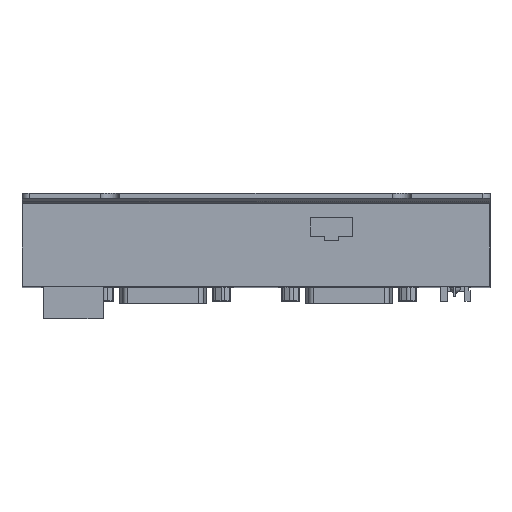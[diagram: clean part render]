
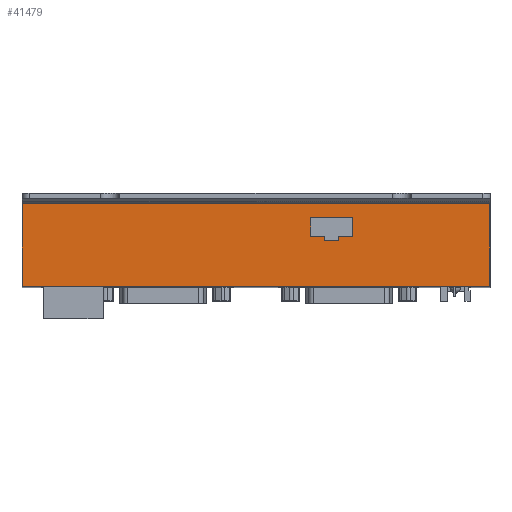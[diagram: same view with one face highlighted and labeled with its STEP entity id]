
A CAD part, top view. The second image highlights one B-rep face of the part: STEP entity #41479.
In plain terms, the highlighted planar face has unit normal (0, 0, 1) as drawn and (1, 0, 0) by its records, which use the part's own axes.
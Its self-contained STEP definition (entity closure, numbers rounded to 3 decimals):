
#385 = EDGE_CURVE ( 'NONE', #54546, #32883, #46761, .T. ) ;
#604 = ORIENTED_EDGE ( 'NONE', *, *, #1117, .T. ) ;
#740 = CARTESIAN_POINT ( 'NONE',  ( 112.5, -19.5, 10.5 ) ) ;
#818 = DIRECTION ( 'NONE',  ( 0., 0., -1. ) ) ;
#1117 = EDGE_CURVE ( 'NONE', #26230, #8861, #50055, .T. ) ;
#1192 = VERTEX_POINT ( 'NONE', #31965 ) ;
#1348 = VERTEX_POINT ( 'NONE', #44324 ) ;
#2355 = CARTESIAN_POINT ( 'NONE',  ( 112.5, -23.5, 10.5 ) ) ;
#4439 = DIRECTION ( 'NONE',  ( 0., 0., 1. ) ) ;
#6897 = EDGE_CURVE ( 'NONE', #19332, #8861, #43477, .T. ) ;
#7776 = CARTESIAN_POINT ( 'NONE',  ( 112.5, -19.5, 10.5 ) ) ;
#8861 = VERTEX_POINT ( 'NONE', #39224 ) ;
#9133 = LINE ( 'NONE', #33086, #58863 ) ;
#9152 = VERTEX_POINT ( 'NONE', #60733 ) ;
#9473 = VECTOR ( 'NONE', #61089, 1000. ) ;
#10717 = CARTESIAN_POINT ( 'NONE',  ( 112.5, 66.5, 23.5 ) ) ;
#11447 = EDGE_CURVE ( 'NONE', #32883, #1348, #40094, .T. ) ;
#11672 = CARTESIAN_POINT ( 'NONE',  ( 112.5, 66.5, 23.5 ) ) ;
#12500 = DIRECTION ( 'NONE',  ( 0., 0., 1. ) ) ;
#13171 = EDGE_LOOP ( 'NONE', ( #604, #50234, #51961, #59231 ) ) ;
#13631 = DIRECTION ( 'NONE',  ( 0., 0., -1. ) ) ;
#14530 = CARTESIAN_POINT ( 'NONE',  ( 112.5, -19.5, 9.3 ) ) ;
#14789 = LINE ( 'NONE', #740, #39453 ) ;
#14814 = VECTOR ( 'NONE', #54272, 1000. ) ;
#15420 = PLANE ( 'NONE',  #34109 ) ;
#15707 = VERTEX_POINT ( 'NONE', #14530 ) ;
#16043 = DIRECTION ( 'NONE',  ( 0., -1., 0. ) ) ;
#17066 = CARTESIAN_POINT ( 'NONE',  ( 112.5, 66.5, 0. ) ) ;
#17308 = CARTESIAN_POINT ( 'NONE',  ( 112.5, 66.5, 23.5 ) ) ;
#18382 = CARTESIAN_POINT ( 'NONE',  ( 112.5, -66.5, 0. ) ) ;
#19069 = VECTOR ( 'NONE', #818, 1000. ) ;
#19095 = VECTOR ( 'NONE', #60395, 1000. ) ;
#19182 = EDGE_CURVE ( 'NONE', #52443, #54546, #14789, .T. ) ;
#19332 = VERTEX_POINT ( 'NONE', #10717 ) ;
#19837 = VECTOR ( 'NONE', #12500, 1000. ) ;
#20077 = DIRECTION ( 'NONE',  ( -1., 0., 0. ) ) ;
#20409 = CARTESIAN_POINT ( 'NONE',  ( 112.5, 66.5, 23.5 ) ) ;
#20636 = CARTESIAN_POINT ( 'NONE',  ( 112.5, -27.5, 9.3 ) ) ;
#20992 = FACE_OUTER_BOUND ( 'NONE', #13171, .T. ) ;
#21498 = CARTESIAN_POINT ( 'NONE',  ( 112.5, -27.5, 4. ) ) ;
#21905 = VERTEX_POINT ( 'NONE', #56834 ) ;
#22686 = CARTESIAN_POINT ( 'NONE',  ( 112.5, -19.5, 9.3 ) ) ;
#22951 = CARTESIAN_POINT ( 'NONE',  ( 112.5, -66.5, 23.5 ) ) ;
#23072 = CARTESIAN_POINT ( 'NONE',  ( 112.5, -23.5, 10.5 ) ) ;
#24402 = DIRECTION ( 'NONE',  ( 0., -1., 0. ) ) ;
#24730 = CARTESIAN_POINT ( 'NONE',  ( 112.5, -66.5, 23.5 ) ) ;
#26230 = VERTEX_POINT ( 'NONE', #18382 ) ;
#26488 = CARTESIAN_POINT ( 'NONE',  ( 112.5, -19.5, 10.5 ) ) ;
#26791 = LINE ( 'NONE', #21498, #37364 ) ;
#27829 = EDGE_CURVE ( 'NONE', #21905, #15707, #61306, .T. ) ;
#31161 = ORIENTED_EDGE ( 'NONE', *, *, #19182, .F. ) ;
#31386 = ORIENTED_EDGE ( 'NONE', *, *, #385, .F. ) ;
#31387 = EDGE_CURVE ( 'NONE', #31435, #19332, #40944, .T. ) ;
#31435 = VERTEX_POINT ( 'NONE', #24730 ) ;
#31965 = CARTESIAN_POINT ( 'NONE',  ( 112.5, -27.5, 4. ) ) ;
#32082 = EDGE_CURVE ( 'NONE', #1192, #9152, #26791, .T. ) ;
#32491 = ORIENTED_EDGE ( 'NONE', *, *, #11447, .F. ) ;
#32883 = VERTEX_POINT ( 'NONE', #53843 ) ;
#33086 = CARTESIAN_POINT ( 'NONE',  ( 112.5, -15.5, 9.3 ) ) ;
#34109 = AXIS2_PLACEMENT_3D ( 'NONE', #11672, #20077, #16043 ) ;
#34489 = ORIENTED_EDGE ( 'NONE', *, *, #35560, .F. ) ;
#35426 = DIRECTION ( 'NONE',  ( 0., -1., 0. ) ) ;
#35429 = VECTOR ( 'NONE', #55292, 1000. ) ;
#35560 = EDGE_CURVE ( 'NONE', #15707, #52443, #39912, .T. ) ;
#36038 = CARTESIAN_POINT ( 'NONE',  ( 112.5, -23.5, 9.3 ) ) ;
#37364 = VECTOR ( 'NONE', #60138, 1000. ) ;
#38301 = EDGE_CURVE ( 'NONE', #9152, #21905, #9133, .T. ) ;
#39224 = CARTESIAN_POINT ( 'NONE',  ( 112.5, 66.5, 0. ) ) ;
#39453 = VECTOR ( 'NONE', #24402, 1000. ) ;
#39912 = LINE ( 'NONE', #26488, #19837 ) ;
#40094 = LINE ( 'NONE', #36038, #59365 ) ;
#40944 = LINE ( 'NONE', #17308, #35429 ) ;
#41479 = ADVANCED_FACE ( 'NONE', ( #53718, #20992 ), #15420, .F. ) ;
#42982 = ORIENTED_EDGE ( 'NONE', *, *, #38301, .F. ) ;
#43477 = LINE ( 'NONE', #20409, #19069 ) ;
#44324 = CARTESIAN_POINT ( 'NONE',  ( 112.5, -27.5, 9.3 ) ) ;
#46761 = LINE ( 'NONE', #23072, #9473 ) ;
#47582 = VECTOR ( 'NONE', #54753, 1000. ) ;
#47835 = LINE ( 'NONE', #20636, #14814 ) ;
#49861 = EDGE_CURVE ( 'NONE', #31435, #26230, #52542, .T. ) ;
#50055 = LINE ( 'NONE', #17066, #47582 ) ;
#50234 = ORIENTED_EDGE ( 'NONE', *, *, #6897, .F. ) ;
#51961 = ORIENTED_EDGE ( 'NONE', *, *, #31387, .F. ) ;
#52443 = VERTEX_POINT ( 'NONE', #7776 ) ;
#52542 = LINE ( 'NONE', #22951, #60240 ) ;
#53086 = EDGE_CURVE ( 'NONE', #1348, #1192, #47835, .T. ) ;
#53438 = EDGE_LOOP ( 'NONE', ( #32491, #31386, #31161, #34489, #60553, #42982, #57475, #60086 ) ) ;
#53718 = FACE_BOUND ( 'NONE', #53438, .T. ) ;
#53843 = CARTESIAN_POINT ( 'NONE',  ( 112.5, -23.5, 9.3 ) ) ;
#54272 = DIRECTION ( 'NONE',  ( 0., 0., -1. ) ) ;
#54546 = VERTEX_POINT ( 'NONE', #2355 ) ;
#54753 = DIRECTION ( 'NONE',  ( 0., 1., 0. ) ) ;
#55292 = DIRECTION ( 'NONE',  ( 0., 1., 0. ) ) ;
#56834 = CARTESIAN_POINT ( 'NONE',  ( 112.5, -15.5, 9.3 ) ) ;
#57475 = ORIENTED_EDGE ( 'NONE', *, *, #32082, .F. ) ;
#58863 = VECTOR ( 'NONE', #4439, 1000. ) ;
#59231 = ORIENTED_EDGE ( 'NONE', *, *, #49861, .T. ) ;
#59365 = VECTOR ( 'NONE', #35426, 1000. ) ;
#60086 = ORIENTED_EDGE ( 'NONE', *, *, #53086, .F. ) ;
#60138 = DIRECTION ( 'NONE',  ( 0., 1., 0. ) ) ;
#60240 = VECTOR ( 'NONE', #13631, 1000. ) ;
#60395 = DIRECTION ( 'NONE',  ( 0., -1., 0. ) ) ;
#60553 = ORIENTED_EDGE ( 'NONE', *, *, #27829, .F. ) ;
#60733 = CARTESIAN_POINT ( 'NONE',  ( 112.5, -15.5, 4. ) ) ;
#61089 = DIRECTION ( 'NONE',  ( 0., 0., -1. ) ) ;
#61306 = LINE ( 'NONE', #22686, #19095 ) ;
